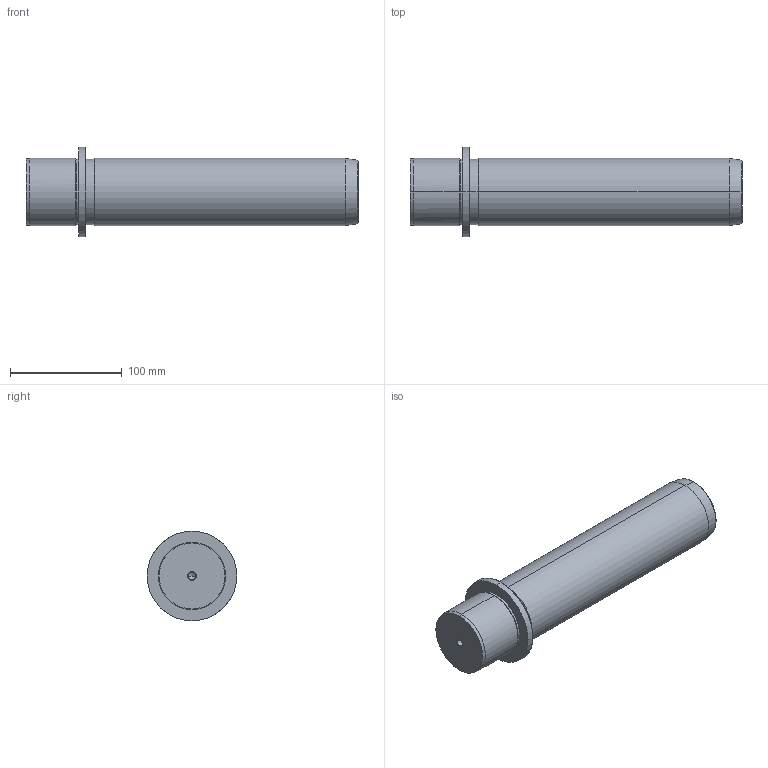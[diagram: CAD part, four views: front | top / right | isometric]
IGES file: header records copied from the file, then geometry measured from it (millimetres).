
Start section: START RECORD GO HERE.
Global section: file name: 718-60x250.igs; native system: DASSAULT SYSTEMES CATIA V5 R20 - www.3ds.com; preprocessor: CATIA Version 5 Release 20 ; author: Utente; organization: NB04-ASUS; date: 20210102.130907; units: millimetre
Bounding box: 297 x 80 x 80 mm (x, y, z)
Surface area: 67161.4 mm2 (no closed solid volume)
Topology: 0 solids, 0 shells, 36 faces, 196 edges, 192 vertices
Faces by surface type: revolution 32, plane 4
